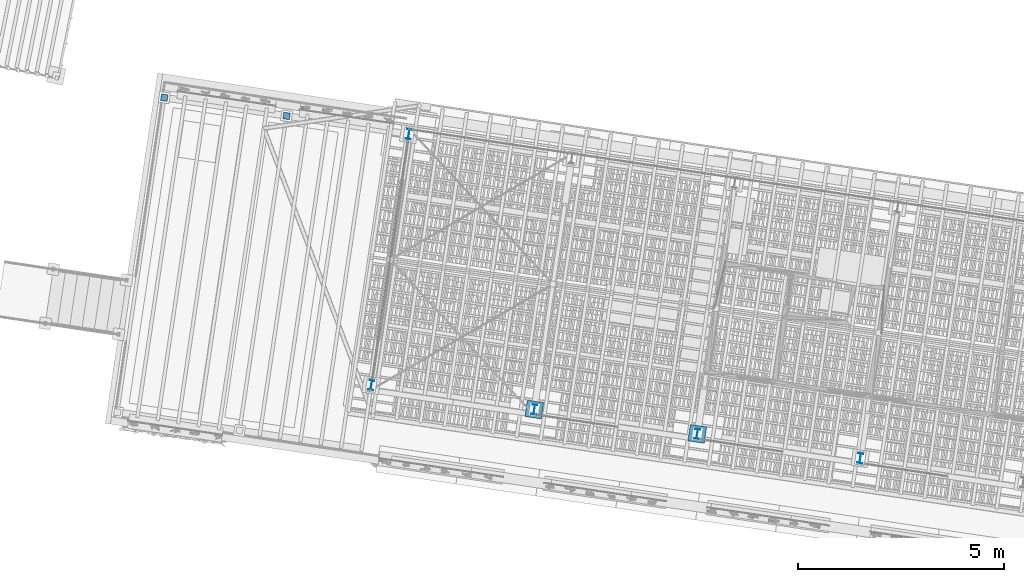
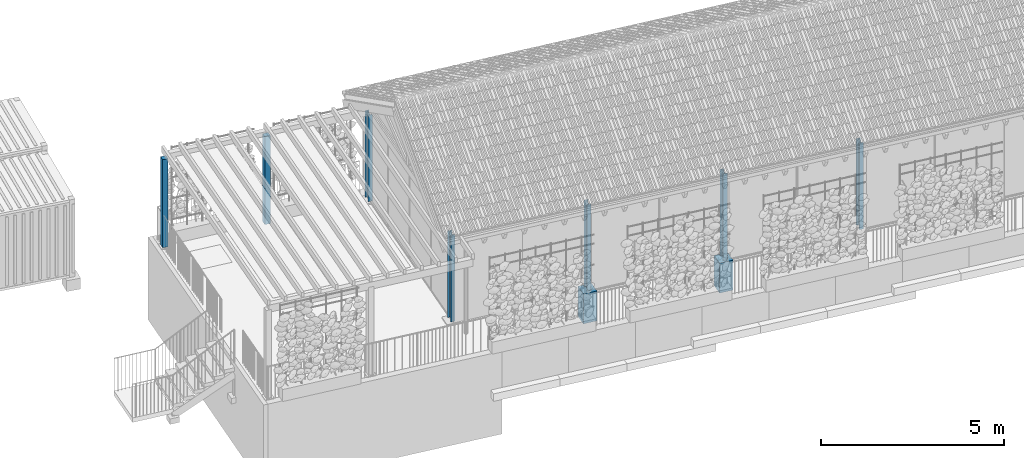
# One storey, part 2 of 128: 9 columns, 1 element without a shape of its own.
"""IFC4 building model written with IfcOpenShell, lengths in metres."""

from ifc_helpers import new_model, si_unit, direction, frame, origin_with_axes, place, context, subcontext, project, spatial, polyline, rectangle, i_section, outline, extrude, material, material_profile, profile_set, profile_usage, type_object, element, aggregate, save


model = new_model("IFC4")

# Units and contexts
model_context = context("Model", 3, precision=1e-05, world=origin_with_axes(), true_north=direction((0.0, 1.0)))
body_context = subcontext(model_context, "Body", "Model", "MODEL_VIEW")
ifc_project = project(units=[si_unit("VOLUMEUNIT", "CUBIC_METRE"), si_unit("LENGTHUNIT", "METRE"), si_unit("AREAUNIT", "SQUARE_METRE")], contexts=[model_context])

# Site, building, storey
site_placement = place(None, origin_with_axes())
site = spatial("IfcSite", under=ifc_project, at=site_placement, Name="Lares · Rua das Mercês · artigo 4771")
building_placement = place(site_placement, frame((15.0, 9.7, 13.9), z_axis=(0.0, 0.0, 1.0), x_axis=(0.989015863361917, -0.147809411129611, 0.0)))
building = spatial("IfcBuilding", under=site, at=building_placement, Name="Casa Sobreposta")
storey_placement = place(building_placement, origin_with_axes())
storey = spatial("IfcBuildingStorey", under=building, at=storey_placement, Name="00 · Habitação e estacionamento", Elevation=13.9)

# Columns
ifc_material_1 = material(Name="Aço pintado / Stahl lackiert", Category="steel")
ifc_material_profile_1 = material_profile(ifc_material_1, i_section(OverallWidth=0.12, OverallDepth=0.24, WebThickness=0.0062, FlangeThickness=0.0098))
ifc_profile_set_1 = profile_set([ifc_material_profile_1], Name="IPE240")
ifc_profile_usage_1 = profile_usage(ifc_profile_set_1)
column_type_1 = type_object("IfcColumnType", Name="IPE240 / steel", PredefinedType="NOTDEFINED", material=ifc_profile_set_1)
column_1_placement = place(storey_placement, frame((0.0, 0.12, 0.0), z_axis=(0.0, 0.0, 1.0), x_axis=(1.0, 0.0, 0.0)))
element("IfcColumn", 1, at=column_1_placement, inside=storey, type_object=column_type_1, material=ifc_profile_usage_1, Name="Casa térrea · pilar metálico de referência", context=body_context, shape_type="SweptSolid", body=[
    extrude(i_section(OverallWidth=0.12, OverallDepth=0.24, WebThickness=0.0062, FlangeThickness=0.0098), origin_with_axes(), (0.0, 0.0, 1.0), 2.89),
])
ifc_profile_usage_2 = profile_usage(ifc_profile_set_1)
column_2_placement = place(storey_placement, frame((0.0, 6.28, 0.0), z_axis=(0.0, 0.0, 1.0), x_axis=(1.0, 0.0, 0.0)))
element("IfcColumn", 2, at=column_2_placement, inside=storey, type_object=column_type_1, material=ifc_profile_usage_2, Name="Casa térrea · pilar metálico de referência", context=body_context, shape_type="SweptSolid", body=[
    extrude(i_section(OverallWidth=0.12, OverallDepth=0.24, WebThickness=0.0062, FlangeThickness=0.0098), origin_with_axes(), (0.0, 0.0, 1.0), 2.89),
])
ifc_profile_usage_3 = profile_usage(ifc_profile_set_1)
column_3_placement = place(storey_placement, frame((4.0, 0.12, 0.0), z_axis=(0.0, 0.0, 1.0), x_axis=(1.0, 0.0, 0.0)))
element("IfcColumn", 3, at=column_3_placement, inside=storey, type_object=column_type_1, material=ifc_profile_usage_3, Name="Casa térrea · pilar metálico de referência", context=body_context, shape_type="SweptSolid", body=[
    extrude(i_section(OverallWidth=0.12, OverallDepth=0.24, WebThickness=0.0062, FlangeThickness=0.0098), origin_with_axes(), (0.0, 0.0, 1.0), 2.89),
])
ifc_profile_usage_4 = profile_usage(ifc_profile_set_1)
column_4_placement = place(storey_placement, frame((8.0, 0.12, 0.0), z_axis=(0.0, 0.0, 1.0), x_axis=(1.0, 0.0, 0.0)))
element("IfcColumn", 4, at=column_4_placement, inside=storey, type_object=column_type_1, material=ifc_profile_usage_4, Name="Casa térrea · pilar metálico de referência", context=body_context, shape_type="SweptSolid", body=[
    extrude(i_section(OverallWidth=0.12, OverallDepth=0.24, WebThickness=0.0062, FlangeThickness=0.0098), origin_with_axes(), (0.0, 0.0, 1.0), 2.89),
])
ifc_profile_usage_5 = profile_usage(ifc_profile_set_1)
column_5_placement = place(storey_placement, frame((12.0, 0.12, 0.0), z_axis=(0.0, 0.0, 1.0), x_axis=(1.0, 0.0, 0.0)))
element("IfcColumn", 5, at=column_5_placement, inside=storey, type_object=column_type_1, material=ifc_profile_usage_5, Name="Casa térrea · pilar metálico de referência", context=body_context, shape_type="SweptSolid", body=[
    extrude(i_section(OverallWidth=0.12, OverallDepth=0.24, WebThickness=0.0062, FlangeThickness=0.0098), origin_with_axes(), (0.0, 0.0, 1.0), 2.89),
])

# Assembly, columns
assembly_placement = place(storey_placement, origin_with_axes())
assembly = element("IfcElementAssembly", 6, at=assembly_placement, inside=storey, Name="Pérgola de madeira · pátio 6 m", ObjectType="TIMBER_PATIO_PERGOLA", PredefinedType="USERDEFINED")
ifc_material_2 = material(Name="Madeira / Bauholz", Category="wood")
ifc_material_profile_2 = material_profile(ifc_material_2, rectangle(XDim=0.16, YDim=0.16))
ifc_profile_set_2 = profile_set([ifc_material_profile_2], Name="TIMBER0.160x0.160")
ifc_profile_usage_6 = profile_usage(ifc_profile_set_2)
column_type_2 = type_object("IfcColumnType", Name="TIMBER0.160x0.160 / timber", PredefinedType="NOTDEFINED", material=ifc_profile_set_2)
column_6_placement = place(assembly_placement, frame((-6.0, 6.28, -0.015), z_axis=(0.0, 0.0, 1.0), x_axis=(1.0, 0.0, 0.0)))
column_6 = element("IfcColumn", 7, at=column_6_placement, type_object=column_type_2, material=ifc_profile_usage_6, Name="Pérgola · pilar", context=body_context, shape_type="SweptSolid", body=[
    extrude(rectangle(XDim=0.16, YDim=0.16), origin_with_axes(), (0.0, 0.0, 1.0), 2.935),
])
ifc_profile_usage_7 = profile_usage(ifc_profile_set_2)
column_7_placement = place(assembly_placement, frame((-3.0, 6.28, -0.015), z_axis=(0.0, 0.0, 1.0), x_axis=(1.0, 0.0, 0.0)))
column_7 = element("IfcColumn", 8, at=column_7_placement, type_object=column_type_2, material=ifc_profile_usage_7, Name="Pérgola · pilar", context=body_context, shape_type="SweptSolid", body=[
    extrude(rectangle(XDim=0.16, YDim=0.16), origin_with_axes(), (0.0, 0.0, 1.0), 2.935),
])
aggregate(assembly, [column_6, column_7])

# Columns
ifc_material_3 = material(Name="Betão armado / Stahlbeton", Category="concrete")
column_8_placement = place(storey_placement, frame((0.0, 0.0, -1.0), z_axis=(0.0, 0.0, 1.0), x_axis=(1.0, 0.0, 0.0)))
element("IfcColumn", 9, at=column_8_placement, inside=storey, material=ifc_material_3, Name="Casa térrea · pedestal", context=body_context, shape_type="SweptSolid", body=[
    extrude(outline(polyline([(4.2, -0.08), (4.2, 0.32), (3.8, 0.32), (3.8, -0.08), (4.2, -0.08)])), origin_with_axes(), (0.0, 0.0, 1.0), 1.0),
])
column_9_placement = place(storey_placement, frame((0.0, 0.0, -1.0), z_axis=(0.0, 0.0, 1.0), x_axis=(1.0, 0.0, 0.0)))
element("IfcColumn", 10, at=column_9_placement, inside=storey, material=ifc_material_3, Name="Casa térrea · pedestal", context=body_context, shape_type="SweptSolid", body=[
    extrude(outline(polyline([(8.2, -0.08), (8.2, 0.32), (7.8, 0.32), (7.8, -0.08), (8.2, -0.08)])), origin_with_axes(), (0.0, 0.0, 1.0), 1.0),
])

save(model, "model.ifc")
